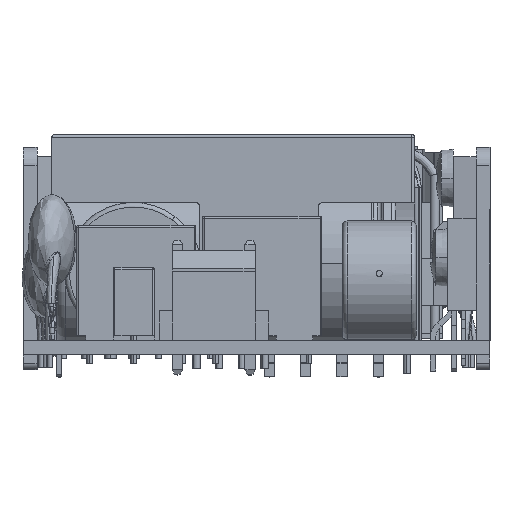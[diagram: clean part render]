
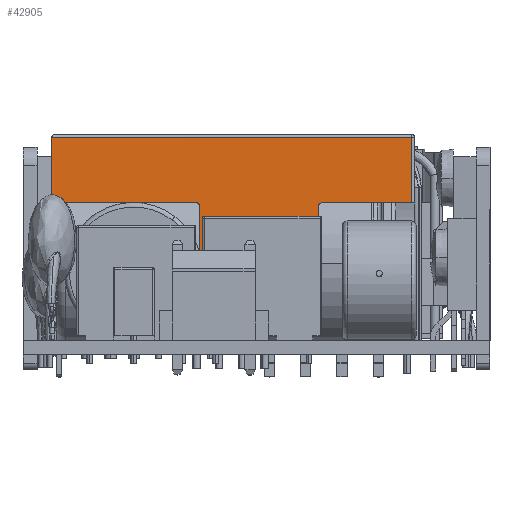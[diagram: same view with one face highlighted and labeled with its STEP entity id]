
A CAD part, left-side view. The second image highlights one B-rep face of the part: STEP entity #42905.
In plain terms, the highlighted planar face has unit normal (-1, 0, 0).
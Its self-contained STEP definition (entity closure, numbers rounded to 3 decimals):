
#8 = CARTESIAN_POINT ( 'NONE',  ( 126.168, 4.311, 3.25 ) ) ;
#19 = DIRECTION ( 'NONE',  ( 0., -1., 0. ) ) ;
#1196 = VERTEX_POINT ( 'NONE', #62761 ) ;
#1502 = EDGE_CURVE ( 'NONE', #24693, #40247, #21931, .T. ) ;
#1642 = VERTEX_POINT ( 'NONE', #26229 ) ;
#1775 = CARTESIAN_POINT ( 'NONE',  ( 126.168, 20.661, 23.7 ) ) ;
#3250 = DIRECTION ( 'NONE',  ( 0., -1., 0. ) ) ;
#3901 = LINE ( 'NONE', #20687, #61451 ) ;
#5645 = DIRECTION ( 'NONE',  ( 0., -1., 0. ) ) ;
#5916 = CARTESIAN_POINT ( 'NONE',  ( 126.168, 4.611, 16.55 ) ) ;
#6171 = VECTOR ( 'NONE', #25164, 1000. ) ;
#6573 = VECTOR ( 'NONE', #70711, 1000. ) ;
#6813 = CARTESIAN_POINT ( 'NONE',  ( 126.168, 4.611, 16.25 ) ) ;
#10468 = CARTESIAN_POINT ( 'NONE',  ( 126.168, 4.611, 2.95 ) ) ;
#11535 = CARTESIAN_POINT ( 'NONE',  ( 126.168, 20.661, 24. ) ) ;
#11551 = DIRECTION ( 'NONE',  ( 0., 0., -1. ) ) ;
#11834 = LINE ( 'NONE', #10468, #26668 ) ;
#12553 = DIRECTION ( 'NONE',  ( 1., 0., 0. ) ) ;
#13728 = VERTEX_POINT ( 'NONE', #1775 ) ;
#13973 = DIRECTION ( 'NONE',  ( 1., 0., 0. ) ) ;
#14471 = CARTESIAN_POINT ( 'NONE',  ( 126.168, -8.389, 16.55 ) ) ;
#14528 = AXIS2_PLACEMENT_3D ( 'NONE', #45972, #12553, #51544 ) ;
#17435 = DIRECTION ( 'NONE',  ( -1., 0., 0. ) ) ;
#19263 = AXIS2_PLACEMENT_3D ( 'NONE', #50840, #17435, #56445 ) ;
#19969 = ORIENTED_EDGE ( 'NONE', *, *, #30595, .T. ) ;
#20243 = VECTOR ( 'NONE', #56710, 1000. ) ;
#20575 = AXIS2_PLACEMENT_3D ( 'NONE', #47386, #13973, #52954 ) ;
#20687 = CARTESIAN_POINT ( 'NONE',  ( 126.168, 20.211, 3.25 ) ) ;
#21845 = EDGE_CURVE ( 'NONE', #1196, #42320, #39024, .T. ) ;
#21931 = CIRCLE ( 'NONE', #56139, 0.3 ) ;
#24681 = ORIENTED_EDGE ( 'NONE', *, *, #59421, .T. ) ;
#24693 = VERTEX_POINT ( 'NONE', #51122 ) ;
#25164 = DIRECTION ( 'NONE',  ( 0., 0., 1. ) ) ;
#25569 = VECTOR ( 'NONE', #53948, 1000. ) ;
#26229 = CARTESIAN_POINT ( 'NONE',  ( 126.168, 4.611, 3.25 ) ) ;
#26316 = ORIENTED_EDGE ( 'NONE', *, *, #49417, .T. ) ;
#26551 = DIRECTION ( 'NONE',  ( 0., -1., 0. ) ) ;
#26668 = VECTOR ( 'NONE', #49481, 1000. ) ;
#28456 = PLANE ( 'NONE',  #19263 ) ;
#29005 = EDGE_CURVE ( 'NONE', #1642, #71503, #37564, .T. ) ;
#29088 = VECTOR ( 'NONE', #50535, 1000. ) ;
#29382 = ORIENTED_EDGE ( 'NONE', *, *, #34694, .T. ) ;
#29504 = EDGE_CURVE ( 'NONE', #71503, #24693, #11834, .T. ) ;
#29702 = VERTEX_POINT ( 'NONE', #56513 ) ;
#30145 = FACE_OUTER_BOUND ( 'NONE', #47669, .T. ) ;
#30595 = EDGE_CURVE ( 'NONE', #52986, #50138, #55194, .T. ) ;
#33494 = DIRECTION ( 'NONE',  ( -1., 0., 0. ) ) ;
#33658 = ORIENTED_EDGE ( 'NONE', *, *, #21845, .T. ) ;
#34069 = ORIENTED_EDGE ( 'NONE', *, *, #1502, .T. ) ;
#34694 = EDGE_CURVE ( 'NONE', #40487, #52986, #49316, .T. ) ;
#35123 = CARTESIAN_POINT ( 'NONE',  ( 126.168, -8.389, 3.25 ) ) ;
#36296 = EDGE_CURVE ( 'NONE', #29702, #40487, #3901, .T. ) ;
#37564 = CIRCLE ( 'NONE', #60655, 0.3 ) ;
#37769 = VECTOR ( 'NONE', #49816, 1000. ) ;
#39024 = LINE ( 'NONE', #14471, #52045 ) ;
#39122 = DIRECTION ( 'NONE',  ( -1., 0., 0. ) ) ;
#39459 = CIRCLE ( 'NONE', #20575, 0.3 ) ;
#40006 = CARTESIAN_POINT ( 'NONE',  ( 126.168, -18.539, 16.55 ) ) ;
#40247 = VERTEX_POINT ( 'NONE', #35123 ) ;
#40487 = VERTEX_POINT ( 'NONE', #65072 ) ;
#40901 = VECTOR ( 'NONE', #11551, 1000. ) ;
#41313 = EDGE_CURVE ( 'NONE', #72225, #13728, #67416, .T. ) ;
#41541 = EDGE_CURVE ( 'NONE', #50138, #49883, #39459, .T. ) ;
#42320 = VERTEX_POINT ( 'NONE', #40006 ) ;
#42653 = LINE ( 'NONE', #5916, #40901 ) ;
#42905 = ADVANCED_FACE ( 'NONE', ( #30145 ), #28456, .T. ) ;
#43594 = ORIENTED_EDGE ( 'NONE', *, *, #46308, .T. ) ;
#43628 = ORIENTED_EDGE ( 'NONE', *, *, #36296, .T. ) ;
#44225 = CARTESIAN_POINT ( 'NONE',  ( 126.168, -18.839, 23.7 ) ) ;
#44336 = ORIENTED_EDGE ( 'NONE', *, *, #41313, .T. ) ;
#45687 = LINE ( 'NONE', #11535, #29088 ) ;
#45841 = ORIENTED_EDGE ( 'NONE', *, *, #60035, .T. ) ;
#45972 = CARTESIAN_POINT ( 'NONE',  ( 126.168, -8.689, 16.25 ) ) ;
#46308 = EDGE_CURVE ( 'NONE', #42320, #72225, #64755, .T. ) ;
#46372 = CARTESIAN_POINT ( 'NONE',  ( 126.168, 4.311, 2.95 ) ) ;
#47386 = CARTESIAN_POINT ( 'NONE',  ( 126.168, 4.911, 16.25 ) ) ;
#47669 = EDGE_LOOP ( 'NONE', ( #33658, #43594, #44336, #62156, #43628, #29382, #19969, #57686, #24681, #48777, #60957, #34069, #26316, #45841 ) ) ;
#48399 = CARTESIAN_POINT ( 'NONE',  ( 126.168, 20.211, 16.55 ) ) ;
#48777 = ORIENTED_EDGE ( 'NONE', *, *, #29005, .T. ) ;
#49316 = LINE ( 'NONE', #65330, #6573 ) ;
#49417 = EDGE_CURVE ( 'NONE', #40247, #64067, #50674, .T. ) ;
#49481 = DIRECTION ( 'NONE',  ( 0., -1., 0. ) ) ;
#49816 = DIRECTION ( 'NONE',  ( 0., 1., 0. ) ) ;
#49883 = VERTEX_POINT ( 'NONE', #6813 ) ;
#50138 = VERTEX_POINT ( 'NONE', #53802 ) ;
#50535 = DIRECTION ( 'NONE',  ( 0., 0., -1. ) ) ;
#50674 = LINE ( 'NONE', #58294, #6171 ) ;
#50840 = CARTESIAN_POINT ( 'NONE',  ( 126.168, -18.839, 13.55 ) ) ;
#51121 = CARTESIAN_POINT ( 'NONE',  ( 126.168, -18.539, 24. ) ) ;
#51122 = CARTESIAN_POINT ( 'NONE',  ( 126.168, -8.089, 2.95 ) ) ;
#51544 = DIRECTION ( 'NONE',  ( 0., -1., 0. ) ) ;
#52045 = VECTOR ( 'NONE', #3250, 1000. ) ;
#52954 = DIRECTION ( 'NONE',  ( 0., -1., 0. ) ) ;
#52986 = VERTEX_POINT ( 'NONE', #69277 ) ;
#53802 = CARTESIAN_POINT ( 'NONE',  ( 126.168, 4.911, 16.55 ) ) ;
#53948 = DIRECTION ( 'NONE',  ( 0., -1., 0. ) ) ;
#55194 = LINE ( 'NONE', #48399, #25569 ) ;
#56139 = AXIS2_PLACEMENT_3D ( 'NONE', #66914, #33494, #19 ) ;
#56445 = DIRECTION ( 'NONE',  ( 0., -1., 0. ) ) ;
#56513 = CARTESIAN_POINT ( 'NONE',  ( 126.168, 20.661, 3.25 ) ) ;
#56710 = DIRECTION ( 'NONE',  ( 0., 0., 1. ) ) ;
#57686 = ORIENTED_EDGE ( 'NONE', *, *, #41541, .T. ) ;
#58294 = CARTESIAN_POINT ( 'NONE',  ( 126.168, -8.389, 2.95 ) ) ;
#59421 = EDGE_CURVE ( 'NONE', #49883, #1642, #42653, .T. ) ;
#60035 = EDGE_CURVE ( 'NONE', #64067, #1196, #68601, .T. ) ;
#60225 = CARTESIAN_POINT ( 'NONE',  ( 126.168, -18.539, 23.7 ) ) ;
#60655 = AXIS2_PLACEMENT_3D ( 'NONE', #8, #39122, #5645 ) ;
#60957 = ORIENTED_EDGE ( 'NONE', *, *, #29504, .T. ) ;
#61451 = VECTOR ( 'NONE', #26551, 1000. ) ;
#62156 = ORIENTED_EDGE ( 'NONE', *, *, #64261, .T. ) ;
#62761 = CARTESIAN_POINT ( 'NONE',  ( 126.168, -8.689, 16.55 ) ) ;
#64067 = VERTEX_POINT ( 'NONE', #71527 ) ;
#64261 = EDGE_CURVE ( 'NONE', #13728, #29702, #45687, .T. ) ;
#64755 = LINE ( 'NONE', #51121, #20243 ) ;
#65072 = CARTESIAN_POINT ( 'NONE',  ( 126.168, 20.211, 3.25 ) ) ;
#65330 = CARTESIAN_POINT ( 'NONE',  ( 126.168, 20.211, 2.95 ) ) ;
#66914 = CARTESIAN_POINT ( 'NONE',  ( 126.168, -8.089, 3.25 ) ) ;
#67416 = LINE ( 'NONE', #44225, #37769 ) ;
#68601 = CIRCLE ( 'NONE', #14528, 0.3 ) ;
#69277 = CARTESIAN_POINT ( 'NONE',  ( 126.168, 20.211, 16.55 ) ) ;
#70711 = DIRECTION ( 'NONE',  ( 0., 0., 1. ) ) ;
#71503 = VERTEX_POINT ( 'NONE', #46372 ) ;
#71527 = CARTESIAN_POINT ( 'NONE',  ( 126.168, -8.389, 16.25 ) ) ;
#72225 = VERTEX_POINT ( 'NONE', #60225 ) ;
